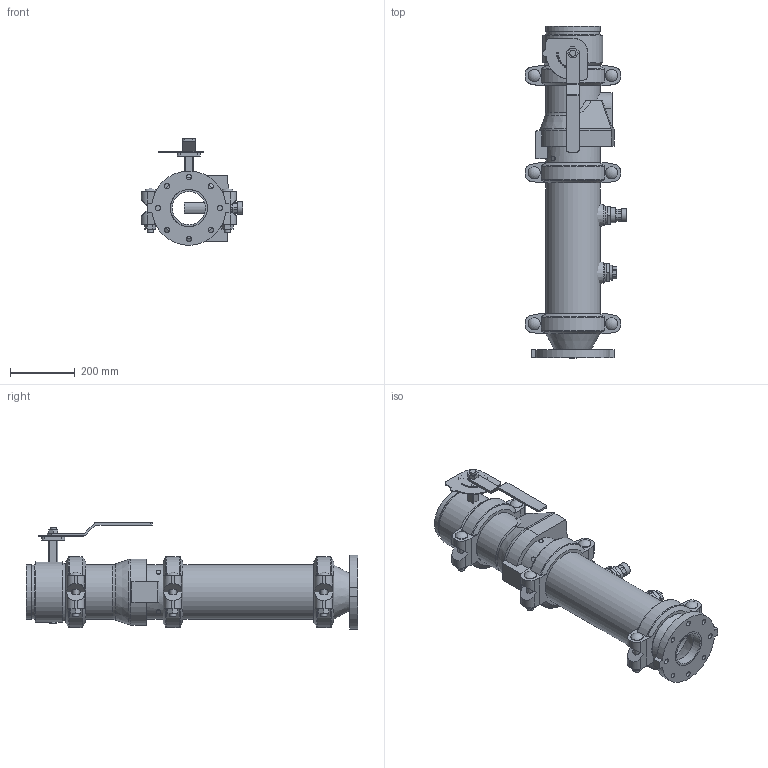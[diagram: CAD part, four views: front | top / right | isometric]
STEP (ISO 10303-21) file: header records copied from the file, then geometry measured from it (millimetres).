
FILE_DESCRIPTION(/* description */ ('VIC DVI PUMP DROP VERT S/380 (OGSxFLG) (S/924-0.75)','CAx-IF Rec.Pracs.---Representation and Presentation of Product Manufacturing Information (PMI)---4.0---2014-10-13'),/* implementation_level */ '2;1');
FILE_NAME(/* name */ 'C:\Users\Public\Documents\Victaulic.Temp\A765\Victaulic_IPS_Vertical DVI_CL 150_Series 380 (OGSxFLG)_924 (0.75)_06.0x04.0 (150x100).stp',/* time_stamp */ '2022-07-25T11:12:32+02:00',/* author */ ('Vjadhav'),/* organization */ ('Victaulic'),/* preprocessor_version */ 'ST-DEVELOPER v18',/* originating_system */ 'Autodesk Inventor 2020',/* authorisation */ '');
FILE_SCHEMA (('AP242_MANAGED_MODEL_BASED_3D_ENGINEERING_MIM_LF { 1 0 10303 442 1 1 4 }'));
Length unit declared in the file: inch
Products named in the file (9): 380_924 (0.75)-06.0x04.0; 741-04.0; 050-06.0x04.0; Pipe-06.0x04.0; 177N-06.0; 761-06.0; 779-06.0; 923-04.0x0.75; 924-04.0x0.75
Assembly tree (10 placements, depth 2):
  380_924 (0.75)-06.0x04.0
    741-04.0
    050-06.0x04.0
    177N-06.0  x3
    Pipe-06.0x04.0
    761-06.0
    779-06.0
    923-04.0x0.75
    924-04.0x0.75
Bounding box: 313.48 x 1022.35 x 326.73 mm (x, y, z)
Volume: 11076164.9 mm3; surface area: 1832747.3 mm2
Topology: 10 solids, 11 shells, 591 faces, 1543 edges, 1032 vertices
Faces by surface type: plane 345, cylinder 200, cone 20, torus 18, sphere 6, bspline 2
Full cylindrical faces by diameter (mm): 4.826 x10, 8.636 x4, 13.716 x4, 15.875 x8, 19.05 x8, 22.86 x1, 26.67 x2, 37.694 x6, 38.608 x1, 45.974 x4, 55.118 x1, 55.626 x2, 102.26 x1, 110.084 x1, 114.3 x3, 154.051 x4, 155.575 x3, 163.957 x7, 168.275 x19, 185.42 x1
Entity records: 14175 total; most frequent: CARTESIAN_POINT 2808, DIRECTION 2351, ORIENTED_EDGE 2114, EDGE_CURVE 1057, AXIS2_PLACEMENT_3D 897, VERTEX_POINT 712, LINE 557, VECTOR 557
